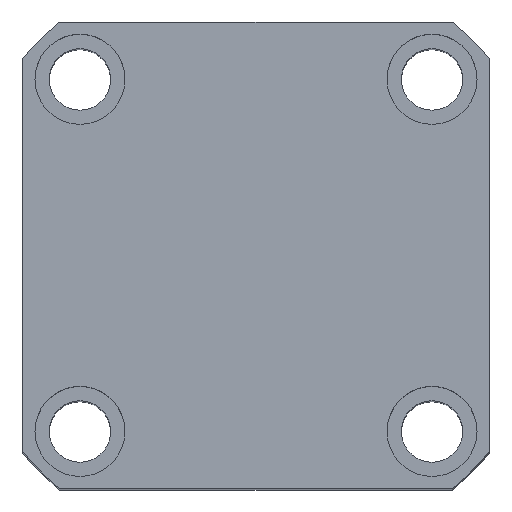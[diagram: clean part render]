
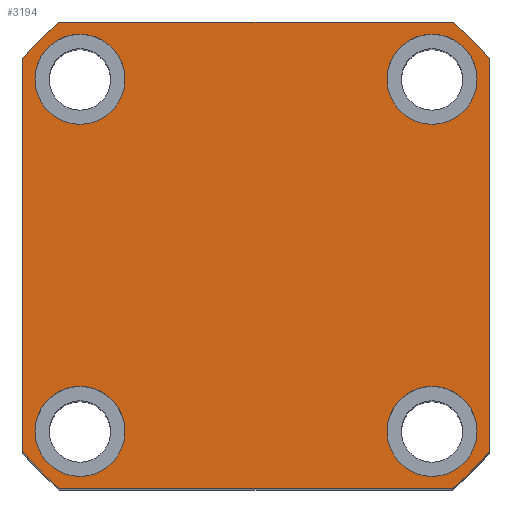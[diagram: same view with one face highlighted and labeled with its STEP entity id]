
A CAD part, top view. The second image highlights one B-rep face of the part: STEP entity #3194.
In plain terms, the highlighted planar face has unit normal (0, 0, 1) as drawn and (0, 0, -1) by its records, which use the part's own axes.
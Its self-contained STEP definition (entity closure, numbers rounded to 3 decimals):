
#140 = EDGE_CURVE ( 'NONE', #5991, #3630, #7256, .T. ) ;
#142 = DIRECTION ( 'NONE',  ( 0., 0., 1. ) ) ;
#219 = FACE_BOUND ( 'NONE', #15026, .T. ) ;
#417 = VERTEX_POINT ( 'NONE', #4757 ) ;
#499 = CARTESIAN_POINT ( 'NONE',  ( 0., 0., 0. ) ) ;
#561 = AXIS2_PLACEMENT_3D ( 'NONE', #14723, #7683, #631 ) ;
#580 = CIRCLE ( 'NONE', #6081, 11. ) ;
#631 = DIRECTION ( 'NONE',  ( 1., 0., 0. ) ) ;
#688 = VERTEX_POINT ( 'NONE', #10681 ) ;
#702 = DIRECTION ( 'NONE',  ( -1., 0., 0. ) ) ;
#779 = CARTESIAN_POINT ( 'NONE',  ( 32., -43., 0. ) ) ;
#839 = VERTEX_POINT ( 'NONE', #11952 ) ;
#903 = CARTESIAN_POINT ( 'NONE',  ( -32., -43., 0. ) ) ;
#907 = DIRECTION ( 'NONE',  ( 1., 0., 0. ) ) ;
#929 = VECTOR ( 'NONE', #12406, 1000. ) ;
#932 = EDGE_CURVE ( 'NONE', #3287, #14658, #9811, .T. ) ;
#941 = DIRECTION ( 'NONE',  ( 0., 0., -1. ) ) ;
#1044 = EDGE_CURVE ( 'NONE', #688, #1242, #3219, .T. ) ;
#1123 = CARTESIAN_POINT ( 'NONE',  ( 43., 43., 0. ) ) ;
#1215 = ORIENTED_EDGE ( 'NONE', *, *, #8698, .F. ) ;
#1242 = VERTEX_POINT ( 'NONE', #8877 ) ;
#1286 = LINE ( 'NONE', #5357, #929 ) ;
#1504 = VERTEX_POINT ( 'NONE', #11357 ) ;
#1520 = CARTESIAN_POINT ( 'NONE',  ( -43., 43., 0. ) ) ;
#1532 = CIRCLE ( 'NONE', #10402, 74.5 ) ;
#1562 = AXIS2_PLACEMENT_3D ( 'NONE', #6882, #15110, #8065 ) ;
#1617 = ORIENTED_EDGE ( 'NONE', *, *, #12946, .F. ) ;
#1623 = EDGE_CURVE ( 'NONE', #1857, #417, #9616, .T. ) ;
#1680 = DIRECTION ( 'NONE',  ( 1., 0., 0. ) ) ;
#1777 = DIRECTION ( 'NONE',  ( 0., 0., 1. ) ) ;
#1857 = VERTEX_POINT ( 'NONE', #9800 ) ;
#2105 = CARTESIAN_POINT ( 'NONE',  ( 43., -43., 0. ) ) ;
#2184 = ORIENTED_EDGE ( 'NONE', *, *, #140, .F. ) ;
#2318 = DIRECTION ( 'NONE',  ( -1., 0., 0. ) ) ;
#2362 = CARTESIAN_POINT ( 'NONE',  ( 47.971, 57., 0. ) ) ;
#2605 = ORIENTED_EDGE ( 'NONE', *, *, #4261, .F. ) ;
#2721 = DIRECTION ( 'NONE',  ( -1., 0., 0. ) ) ;
#2806 = EDGE_LOOP ( 'NONE', ( #3725, #11378, #1617, #12827, #6471, #8027, #8126, #11329 ) ) ;
#2840 = VECTOR ( 'NONE', #14533, 1000. ) ;
#2920 = ORIENTED_EDGE ( 'NONE', *, *, #932, .F. ) ;
#3172 = CARTESIAN_POINT ( 'NONE',  ( 47.971, -57., 0. ) ) ;
#3194 = ADVANCED_FACE ( 'NONE', ( #3712, #219, #3364, #12360, #9240 ), #11775, .F. ) ;
#3219 = LINE ( 'NONE', #7494, #2840 ) ;
#3287 = VERTEX_POINT ( 'NONE', #13061 ) ;
#3291 = DIRECTION ( 'NONE',  ( -1., 0., 0. ) ) ;
#3306 = EDGE_CURVE ( 'NONE', #14658, #3287, #8747, .T. ) ;
#3364 = FACE_BOUND ( 'NONE', #12951, .T. ) ;
#3411 = AXIS2_PLACEMENT_3D ( 'NONE', #14793, #7745, #702 ) ;
#3562 = CARTESIAN_POINT ( 'NONE',  ( 0., 0., 0. ) ) ;
#3630 = VERTEX_POINT ( 'NONE', #903 ) ;
#3712 = FACE_BOUND ( 'NONE', #8064, .T. ) ;
#3725 = ORIENTED_EDGE ( 'NONE', *, *, #6956, .F. ) ;
#3894 = CIRCLE ( 'NONE', #12192, 11. ) ;
#4058 = CIRCLE ( 'NONE', #1562, 11. ) ;
#4261 = EDGE_CURVE ( 'NONE', #839, #10758, #9821, .T. ) ;
#4429 = CARTESIAN_POINT ( 'NONE',  ( 54., 43., 0. ) ) ;
#4618 = ORIENTED_EDGE ( 'NONE', *, *, #13321, .F. ) ;
#4627 = CIRCLE ( 'NONE', #14748, 11. ) ;
#4733 = VERTEX_POINT ( 'NONE', #2362 ) ;
#4757 = CARTESIAN_POINT ( 'NONE',  ( -57., 47.971, 0. ) ) ;
#4843 = ORIENTED_EDGE ( 'NONE', *, *, #12548, .F. ) ;
#4846 = DIRECTION ( 'NONE',  ( 0., 0., -1. ) ) ;
#4880 = DIRECTION ( 'NONE',  ( 0., 0., -1. ) ) ;
#5158 = EDGE_CURVE ( 'NONE', #8916, #9221, #1532, .T. ) ;
#5257 = CARTESIAN_POINT ( 'NONE',  ( -32., 43., 0. ) ) ;
#5357 = CARTESIAN_POINT ( 'NONE',  ( -57., 57., 0. ) ) ;
#5794 = AXIS2_PLACEMENT_3D ( 'NONE', #7185, #142, #8366 ) ;
#5903 = AXIS2_PLACEMENT_3D ( 'NONE', #11899, #4846, #13075 ) ;
#5991 = VERTEX_POINT ( 'NONE', #13484 ) ;
#6081 = AXIS2_PLACEMENT_3D ( 'NONE', #1123, #9347, #2318 ) ;
#6189 = VERTEX_POINT ( 'NONE', #3172 ) ;
#6330 = EDGE_CURVE ( 'NONE', #9221, #6189, #8309, .T. ) ;
#6471 = ORIENTED_EDGE ( 'NONE', *, *, #5158, .F. ) ;
#6882 = CARTESIAN_POINT ( 'NONE',  ( 43., 43., 0. ) ) ;
#6956 = EDGE_CURVE ( 'NONE', #1242, #4733, #11609, .T. ) ;
#6960 = ORIENTED_EDGE ( 'NONE', *, *, #3306, .F. ) ;
#7111 = DIRECTION ( 'NONE',  ( 1., 0., 0. ) ) ;
#7185 = CARTESIAN_POINT ( 'NONE',  ( 0., 0., 0. ) ) ;
#7197 = EDGE_LOOP ( 'NONE', ( #2920, #6960 ) ) ;
#7256 = CIRCLE ( 'NONE', #3411, 11. ) ;
#7494 = CARTESIAN_POINT ( 'NONE',  ( 57., 57., 0. ) ) ;
#7683 = DIRECTION ( 'NONE',  ( 0., 0., 1. ) ) ;
#7745 = DIRECTION ( 'NONE',  ( 0., 0., -1. ) ) ;
#7992 = CARTESIAN_POINT ( 'NONE',  ( -43., -43., 0. ) ) ;
#8027 = ORIENTED_EDGE ( 'NONE', *, *, #10579, .F. ) ;
#8064 = EDGE_LOOP ( 'NONE', ( #2184, #13003 ) ) ;
#8065 = DIRECTION ( 'NONE',  ( -1., 0., 0. ) ) ;
#8126 = ORIENTED_EDGE ( 'NONE', *, *, #1623, .F. ) ;
#8309 = LINE ( 'NONE', #11423, #14197 ) ;
#8366 = DIRECTION ( 'NONE',  ( 1., 0., 0. ) ) ;
#8666 = CIRCLE ( 'NONE', #8960, 74.5 ) ;
#8698 = EDGE_CURVE ( 'NONE', #10758, #839, #4627, .T. ) ;
#8735 = DIRECTION ( 'NONE',  ( 0., 0., 1. ) ) ;
#8747 = CIRCLE ( 'NONE', #12808, 11. ) ;
#8824 = CARTESIAN_POINT ( 'NONE',  ( 0., 0., 0. ) ) ;
#8877 = CARTESIAN_POINT ( 'NONE',  ( 57., 47.971, 0. ) ) ;
#8916 = VERTEX_POINT ( 'NONE', #15265 ) ;
#8960 = AXIS2_PLACEMENT_3D ( 'NONE', #499, #8735, #1680 ) ;
#9161 = DIRECTION ( 'NONE',  ( -1., 0., 0. ) ) ;
#9221 = VERTEX_POINT ( 'NONE', #11073 ) ;
#9240 = FACE_OUTER_BOUND ( 'NONE', #2806, .T. ) ;
#9347 = DIRECTION ( 'NONE',  ( 0., 0., -1. ) ) ;
#9616 = CIRCLE ( 'NONE', #5794, 74.5 ) ;
#9741 = DIRECTION ( 'NONE',  ( 0., 0., -1. ) ) ;
#9800 = CARTESIAN_POINT ( 'NONE',  ( -47.971, 57., 0. ) ) ;
#9811 = CIRCLE ( 'NONE', #15081, 11. ) ;
#9821 = CIRCLE ( 'NONE', #5903, 11. ) ;
#9864 = CARTESIAN_POINT ( 'NONE',  ( -57., 57., 0. ) ) ;
#9999 = DIRECTION ( 'NONE',  ( 1., 0., 0. ) ) ;
#10313 = DIRECTION ( 'NONE',  ( 0., 0., -1. ) ) ;
#10402 = AXIS2_PLACEMENT_3D ( 'NONE', #8824, #1777, #9999 ) ;
#10579 = EDGE_CURVE ( 'NONE', #417, #8916, #12186, .T. ) ;
#10681 = CARTESIAN_POINT ( 'NONE',  ( 57., -47.971, 0. ) ) ;
#10758 = VERTEX_POINT ( 'NONE', #779 ) ;
#11073 = CARTESIAN_POINT ( 'NONE',  ( -47.971, -57., 0. ) ) ;
#11221 = AXIS2_PLACEMENT_3D ( 'NONE', #3562, #14152, #7111 ) ;
#11329 = ORIENTED_EDGE ( 'NONE', *, *, #14808, .F. ) ;
#11357 = CARTESIAN_POINT ( 'NONE',  ( 32., 43., 0. ) ) ;
#11378 = ORIENTED_EDGE ( 'NONE', *, *, #1044, .F. ) ;
#11423 = CARTESIAN_POINT ( 'NONE',  ( -57., -57., 0. ) ) ;
#11609 = CIRCLE ( 'NONE', #561, 74.5 ) ;
#11661 = EDGE_CURVE ( 'NONE', #3630, #5991, #3894, .T. ) ;
#11775 = PLANE ( 'NONE',  #11221 ) ;
#11899 = CARTESIAN_POINT ( 'NONE',  ( 43., -43., 0. ) ) ;
#11927 = CARTESIAN_POINT ( 'NONE',  ( -43., 43., 0. ) ) ;
#11952 = CARTESIAN_POINT ( 'NONE',  ( 54., -43., 0. ) ) ;
#12186 = LINE ( 'NONE', #9864, #14975 ) ;
#12192 = AXIS2_PLACEMENT_3D ( 'NONE', #7992, #941, #9161 ) ;
#12360 = FACE_BOUND ( 'NONE', #7197, .T. ) ;
#12406 = DIRECTION ( 'NONE',  ( -1., 0., 0. ) ) ;
#12548 = EDGE_CURVE ( 'NONE', #13909, #1504, #580, .T. ) ;
#12808 = AXIS2_PLACEMENT_3D ( 'NONE', #11927, #4880, #13110 ) ;
#12827 = ORIENTED_EDGE ( 'NONE', *, *, #6330, .F. ) ;
#12946 = EDGE_CURVE ( 'NONE', #6189, #688, #8666, .T. ) ;
#12951 = EDGE_LOOP ( 'NONE', ( #4618, #4843 ) ) ;
#13003 = ORIENTED_EDGE ( 'NONE', *, *, #11661, .F. ) ;
#13061 = CARTESIAN_POINT ( 'NONE',  ( -54., 43., 0. ) ) ;
#13075 = DIRECTION ( 'NONE',  ( -1., 0., 0. ) ) ;
#13110 = DIRECTION ( 'NONE',  ( -1., 0., 0. ) ) ;
#13321 = EDGE_CURVE ( 'NONE', #1504, #13909, #4058, .T. ) ;
#13484 = CARTESIAN_POINT ( 'NONE',  ( -54., -43., 0. ) ) ;
#13909 = VERTEX_POINT ( 'NONE', #4429 ) ;
#14152 = DIRECTION ( 'NONE',  ( 0., 0., 1. ) ) ;
#14197 = VECTOR ( 'NONE', #907, 1000. ) ;
#14533 = DIRECTION ( 'NONE',  ( 0., 1., 0. ) ) ;
#14657 = DIRECTION ( 'NONE',  ( 0., -1., 0. ) ) ;
#14658 = VERTEX_POINT ( 'NONE', #5257 ) ;
#14723 = CARTESIAN_POINT ( 'NONE',  ( 0., 0., 0. ) ) ;
#14748 = AXIS2_PLACEMENT_3D ( 'NONE', #2105, #10313, #3291 ) ;
#14793 = CARTESIAN_POINT ( 'NONE',  ( -43., -43., 0. ) ) ;
#14808 = EDGE_CURVE ( 'NONE', #4733, #1857, #1286, .T. ) ;
#14975 = VECTOR ( 'NONE', #14657, 1000. ) ;
#15026 = EDGE_LOOP ( 'NONE', ( #1215, #2605 ) ) ;
#15081 = AXIS2_PLACEMENT_3D ( 'NONE', #1520, #9741, #2721 ) ;
#15110 = DIRECTION ( 'NONE',  ( 0., 0., -1. ) ) ;
#15265 = CARTESIAN_POINT ( 'NONE',  ( -57., -47.971, 0. ) ) ;
